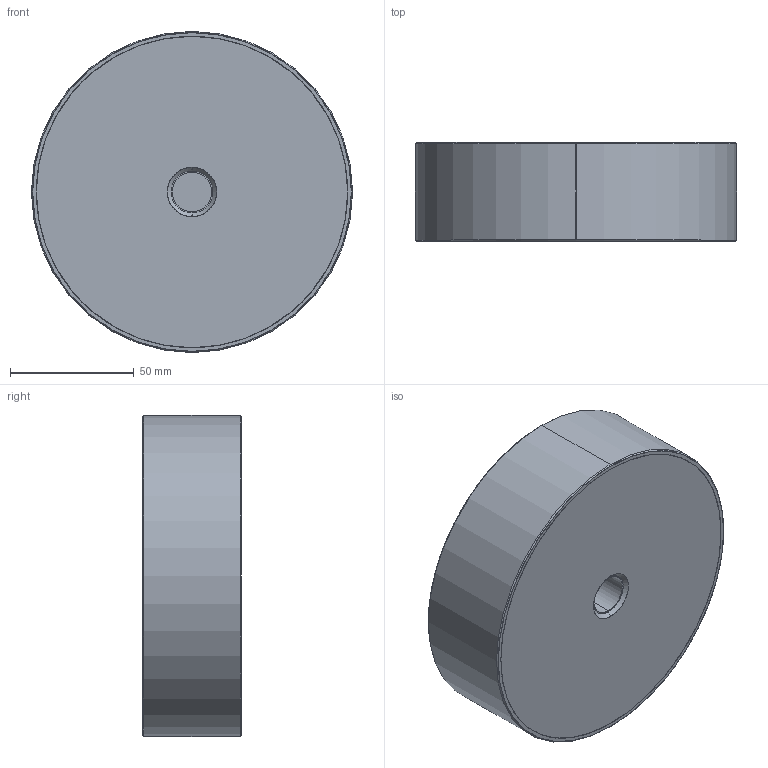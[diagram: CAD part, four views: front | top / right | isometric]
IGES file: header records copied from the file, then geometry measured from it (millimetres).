
Start section: SolidWorks IGES file using analytic representation for surfaces
Global section: file name: E:\WIXROYD 20180701\61080_v2\61080_v2_20180409_IGES\61080.W0931.igs; native system: SolidWorks 2017; preprocessor: SolidWorks 2017; author: liam_; date: 180716.214758; units: millimetre
Bounding box: 130 x 40 x 130 mm (x, y, z)
Surface area: 95515.9 mm2 (no closed solid volume)
Topology: 0 solids, 0 shells, 32 faces, 984 edges, 984 vertices
Faces by surface type: revolution 22, bspline 10
